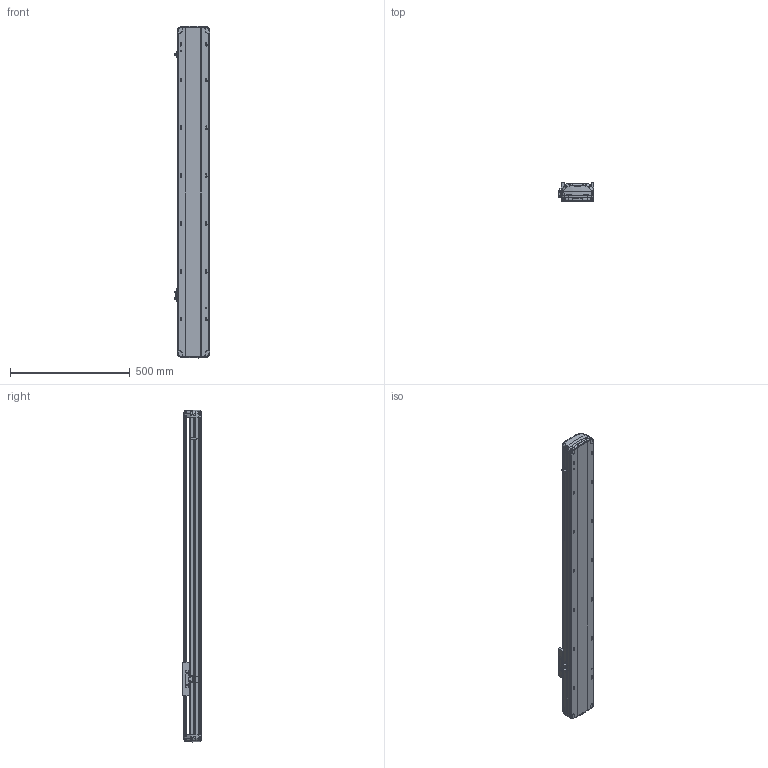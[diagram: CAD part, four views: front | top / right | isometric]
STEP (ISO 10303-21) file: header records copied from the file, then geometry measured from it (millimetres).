
FILE_DESCRIPTION (( 'STEP AP214' ), '1' );
FILE_NAME ('RTH14-XX-1000-B-M20-C4.STEP', '2025-10-25T02:24:14', ( 'Microsoft' ), ( 'Microsoft' ), 'SwSTEP 2.0', 'SolidWorks 2018', '' );
FILE_SCHEMA (( 'AUTOMOTIVE_DESIGN' ));
Length unit declared in the file: millimetre
Products named in the file (7): N_RTH14-GY-001P^RTH14-XX-XX-B-M20-C4; N_RTH14-B-011P菁釱^RTH14-XX-XX-B-M20-C4; N_OMRON EE-SX672 传感器^RTH14-XX-XX-B-M20-C4; N_RTH13-L-012感应片（外置）^RTH14-XX-XX-B-M20-C4; N_RTH14-B-007奻裔^RTH14-XX-XX-B-M20-C4; N_RTH14-R-004-SFSR16賑釱^RTH14-XX-XX-B-M20-C4; RTH14-XX-1000-B-M20-C4
Assembly tree (9 placements, depth 2):
  RTH14-XX-1000-B-M20-C4
    N_RTH14-B-011P菁釱^RTH14-XX-XX-B-M20-C4
    N_RTH14-B-007奻裔^RTH14-XX-XX-B-M20-C4
    N_RTH13-L-012感应片（外置）^RTH14-XX-XX-B-M20-C4
    N_OMRON EE-SX672 传感器^RTH14-XX-XX-B-M20-C4  x3
    N_RTH14-R-004-SFSR16賑釱^RTH14-XX-XX-B-M20-C4
    N_RTH14-GY-001P^RTH14-XX-XX-B-M20-C4  x2
Bounding box: 148.5 x 78.02 x 1388.74 mm (x, y, z)
Volume: 5588226.6 mm3; surface area: 1280889.8 mm2
Topology: 9 solids, 9 shells, 1954 faces, 5512 edges, 3590 vertices
Faces by surface type: plane 987, cylinder 453, bspline 450, cone 56, torus 8
Entity records: 48032 total; most frequent: CARTESIAN_POINT 21194, ORIENTED_EDGE 6040, DIRECTION 4503, EDGE_CURVE 3020, VERTEX_POINT 1976, LINE 1683, VECTOR 1683, AXIS2_PLACEMENT_3D 1410
